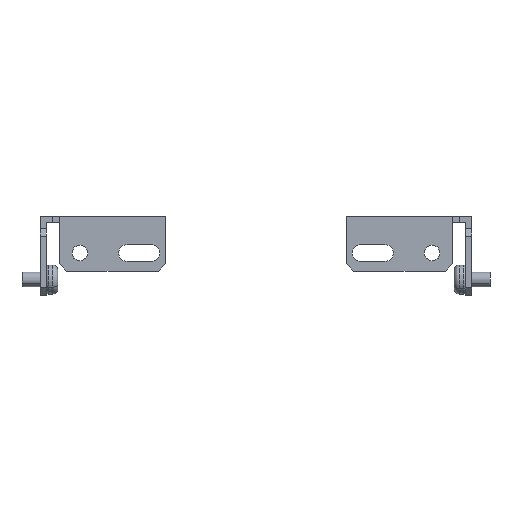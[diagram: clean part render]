
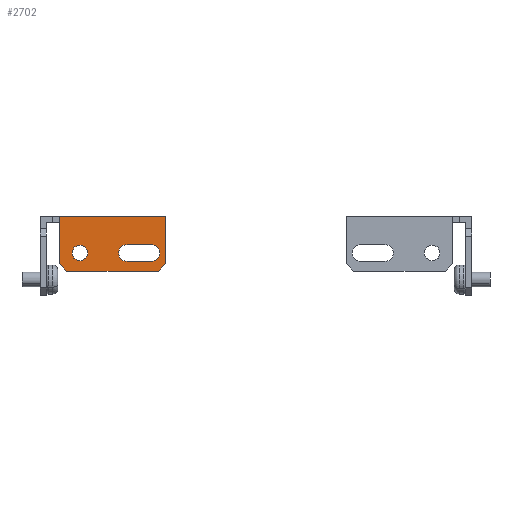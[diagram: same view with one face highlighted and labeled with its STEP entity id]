
A CAD part, front view. The second image highlights one B-rep face of the part: STEP entity #2702.
In plain terms, the highlighted planar face has unit normal (0, -1, 0).
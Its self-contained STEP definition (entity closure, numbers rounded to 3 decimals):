
#6 = DIRECTION ( 'NONE',  ( 0., 1., 0. ) ) ;
#116 = EDGE_CURVE ( 'NONE', #2711, #3448, #779, .T. ) ;
#135 = CARTESIAN_POINT ( 'NONE',  ( -81.414, -36.43, 13.75 ) ) ;
#159 = VERTEX_POINT ( 'NONE', #3949 ) ;
#172 = VERTEX_POINT ( 'NONE', #1917 ) ;
#237 = ORIENTED_EDGE ( 'NONE', *, *, #1753, .T. ) ;
#278 = CARTESIAN_POINT ( 'NONE',  ( -37.414, -36.43, 13.75 ) ) ;
#286 = EDGE_CURVE ( 'NONE', #3374, #3863, #724, .T. ) ;
#350 = CARTESIAN_POINT ( 'NONE',  ( -37.414, -36.43, 11.25 ) ) ;
#355 = AXIS2_PLACEMENT_3D ( 'NONE', #1290, #4452, #4115 ) ;
#367 = EDGE_LOOP ( 'NONE', ( #2896, #829 ) ) ;
#385 = VERTEX_POINT ( 'NONE', #3464 ) ;
#405 = EDGE_LOOP ( 'NONE', ( #3598, #1412, #4090, #2081, #3153, #4430, #2095, #4524 ) ) ;
#478 = CARTESIAN_POINT ( 'NONE',  ( -43.414, -36.43, 1.25 ) ) ;
#503 = DIRECTION ( 'NONE',  ( 0., 1., 0. ) ) ;
#522 = DIRECTION ( 'NONE',  ( 0.707, 0., 0.707 ) ) ;
#612 = VERTEX_POINT ( 'NONE', #2018 ) ;
#633 = VECTOR ( 'NONE', #3560, 1000. ) ;
#652 = DIRECTION ( 'NONE',  ( 0., 0., 1. ) ) ;
#666 = CIRCLE ( 'NONE', #1919, 3.5 ) ;
#685 = VERTEX_POINT ( 'NONE', #1933 ) ;
#724 = CIRCLE ( 'NONE', #355, 3.5 ) ;
#779 = LINE ( 'NONE', #4343, #1985 ) ;
#801 = AXIS2_PLACEMENT_3D ( 'NONE', #1758, #6, #2400 ) ;
#819 = EDGE_CURVE ( 'NONE', #3448, #385, #3477, .T. ) ;
#829 = ORIENTED_EDGE ( 'NONE', *, *, #2279, .T. ) ;
#987 = CARTESIAN_POINT ( 'NONE',  ( -53.414, -36.43, -2.25 ) ) ;
#1168 = VECTOR ( 'NONE', #3574, 1000. ) ;
#1227 = VECTOR ( 'NONE', #1815, 1000. ) ;
#1290 = CARTESIAN_POINT ( 'NONE',  ( -53.414, -36.43, 1.25 ) ) ;
#1310 = CARTESIAN_POINT ( 'NONE',  ( -43.414, -36.43, 4.75 ) ) ;
#1388 = VERTEX_POINT ( 'NONE', #2219 ) ;
#1412 = ORIENTED_EDGE ( 'NONE', *, *, #116, .T. ) ;
#1415 = LINE ( 'NONE', #350, #4394 ) ;
#1606 = ORIENTED_EDGE ( 'NONE', *, *, #1833, .T. ) ;
#1718 = EDGE_CURVE ( 'NONE', #685, #159, #2983, .T. ) ;
#1753 = EDGE_CURVE ( 'NONE', #3863, #4128, #3923, .T. ) ;
#1758 = CARTESIAN_POINT ( 'NONE',  ( -89.414, -36.43, 13.75 ) ) ;
#1759 = EDGE_CURVE ( 'NONE', #612, #2437, #3253, .T. ) ;
#1786 = CARTESIAN_POINT ( 'NONE',  ( -81.414, -36.43, 16.25 ) ) ;
#1791 = EDGE_LOOP ( 'NONE', ( #2979, #237, #1920, #1606 ) ) ;
#1815 = DIRECTION ( 'NONE',  ( 0., 0., 1. ) ) ;
#1833 = EDGE_CURVE ( 'NONE', #172, #3374, #1980, .T. ) ;
#1917 = CARTESIAN_POINT ( 'NONE',  ( -43.414, -36.43, -2.25 ) ) ;
#1918 = VECTOR ( 'NONE', #522, 1000. ) ;
#1919 = AXIS2_PLACEMENT_3D ( 'NONE', #478, #2186, #3990 ) ;
#1920 = ORIENTED_EDGE ( 'NONE', *, *, #3998, .T. ) ;
#1933 = CARTESIAN_POINT ( 'NONE',  ( -72.914, -36.43, 4.5 ) ) ;
#1937 = DIRECTION ( 'NONE',  ( 0.707, 0., -0.707 ) ) ;
#1947 = LINE ( 'NONE', #2678, #1918 ) ;
#1980 = LINE ( 'NONE', #3030, #4009 ) ;
#1985 = VECTOR ( 'NONE', #1937, 1000. ) ;
#2003 = EDGE_CURVE ( 'NONE', #2924, #2437, #2483, .T. ) ;
#2012 = FACE_BOUND ( 'NONE', #367, .T. ) ;
#2018 = CARTESIAN_POINT ( 'NONE',  ( -81.414, -36.43, 11.25 ) ) ;
#2033 = EDGE_CURVE ( 'NONE', #612, #2711, #4268, .T. ) ;
#2043 = DIRECTION ( 'NONE',  ( 0., 1., 0. ) ) ;
#2071 = CARTESIAN_POINT ( 'NONE',  ( -89.414, -36.43, -6.25 ) ) ;
#2081 = ORIENTED_EDGE ( 'NONE', *, *, #4525, .T. ) ;
#2095 = ORIENTED_EDGE ( 'NONE', *, *, #2003, .T. ) ;
#2186 = DIRECTION ( 'NONE',  ( 0., 1., 0. ) ) ;
#2203 = DIRECTION ( 'NONE',  ( 0., 0., -1. ) ) ;
#2208 = DIRECTION ( 'NONE',  ( 0., 0., 1. ) ) ;
#2219 = CARTESIAN_POINT ( 'NONE',  ( -37.414, -36.43, -3.25 ) ) ;
#2243 = CARTESIAN_POINT ( 'NONE',  ( -81.414, -36.43, 13.75 ) ) ;
#2279 = EDGE_CURVE ( 'NONE', #159, #685, #3358, .T. ) ;
#2293 = DIRECTION ( 'NONE',  ( -1., 0., 0. ) ) ;
#2318 = AXIS2_PLACEMENT_3D ( 'NONE', #3215, #503, #2208 ) ;
#2373 = CARTESIAN_POINT ( 'NONE',  ( -53.414, -36.43, 4.75 ) ) ;
#2400 = DIRECTION ( 'NONE',  ( 0., 0., -1. ) ) ;
#2437 = VERTEX_POINT ( 'NONE', #1786 ) ;
#2483 = LINE ( 'NONE', #3104, #1168 ) ;
#2509 = LINE ( 'NONE', #278, #4107 ) ;
#2678 = CARTESIAN_POINT ( 'NONE',  ( -37.414, -36.43, -3.25 ) ) ;
#2702 = ADVANCED_FACE ( 'NONE', ( #2012, #4167, #4461 ), #2742, .F. ) ;
#2711 = VERTEX_POINT ( 'NONE', #2810 ) ;
#2712 = EDGE_CURVE ( 'NONE', #4543, #2924, #1415, .T. ) ;
#2742 = PLANE ( 'NONE',  #801 ) ;
#2769 = DIRECTION ( 'NONE',  ( 0., 0., 1. ) ) ;
#2810 = CARTESIAN_POINT ( 'NONE',  ( -81.414, -36.43, -3.25 ) ) ;
#2877 = CARTESIAN_POINT ( 'NONE',  ( -89.414, -36.43, 4.75 ) ) ;
#2896 = ORIENTED_EDGE ( 'NONE', *, *, #1718, .T. ) ;
#2924 = VERTEX_POINT ( 'NONE', #3178 ) ;
#2979 = ORIENTED_EDGE ( 'NONE', *, *, #286, .T. ) ;
#2983 = CIRCLE ( 'NONE', #2318, 3.25 ) ;
#3025 = CARTESIAN_POINT ( 'NONE',  ( -37.414, -36.43, 11.25 ) ) ;
#3030 = CARTESIAN_POINT ( 'NONE',  ( -89.414, -36.43, -2.25 ) ) ;
#3064 = VECTOR ( 'NONE', #2203, 1000. ) ;
#3104 = CARTESIAN_POINT ( 'NONE',  ( -89.414, -36.43, 16.25 ) ) ;
#3153 = ORIENTED_EDGE ( 'NONE', *, *, #3882, .T. ) ;
#3178 = CARTESIAN_POINT ( 'NONE',  ( -37.414, -36.43, 16.25 ) ) ;
#3215 = CARTESIAN_POINT ( 'NONE',  ( -72.914, -36.43, 1.25 ) ) ;
#3253 = LINE ( 'NONE', #135, #1227 ) ;
#3358 = CIRCLE ( 'NONE', #3803, 3.25 ) ;
#3374 = VERTEX_POINT ( 'NONE', #987 ) ;
#3448 = VERTEX_POINT ( 'NONE', #3451 ) ;
#3451 = CARTESIAN_POINT ( 'NONE',  ( -78.414, -36.43, -6.25 ) ) ;
#3464 = CARTESIAN_POINT ( 'NONE',  ( -40.414, -36.43, -6.25 ) ) ;
#3477 = LINE ( 'NONE', #2071, #4429 ) ;
#3560 = DIRECTION ( 'NONE',  ( 1., 0., 0. ) ) ;
#3574 = DIRECTION ( 'NONE',  ( -1., 0., 0. ) ) ;
#3598 = ORIENTED_EDGE ( 'NONE', *, *, #2033, .T. ) ;
#3803 = AXIS2_PLACEMENT_3D ( 'NONE', #4510, #2043, #2769 ) ;
#3831 = DIRECTION ( 'NONE',  ( 1., 0., 0. ) ) ;
#3863 = VERTEX_POINT ( 'NONE', #2373 ) ;
#3882 = EDGE_CURVE ( 'NONE', #1388, #4543, #2509, .T. ) ;
#3923 = LINE ( 'NONE', #2877, #633 ) ;
#3949 = CARTESIAN_POINT ( 'NONE',  ( -72.914, -36.43, -2. ) ) ;
#3990 = DIRECTION ( 'NONE',  ( 0., 0., 1. ) ) ;
#3998 = EDGE_CURVE ( 'NONE', #4128, #172, #666, .T. ) ;
#4009 = VECTOR ( 'NONE', #2293, 1000. ) ;
#4090 = ORIENTED_EDGE ( 'NONE', *, *, #819, .T. ) ;
#4107 = VECTOR ( 'NONE', #4228, 1000. ) ;
#4115 = DIRECTION ( 'NONE',  ( 0., 0., 1. ) ) ;
#4128 = VERTEX_POINT ( 'NONE', #1310 ) ;
#4167 = FACE_BOUND ( 'NONE', #1791, .T. ) ;
#4228 = DIRECTION ( 'NONE',  ( 0., 0., 1. ) ) ;
#4268 = LINE ( 'NONE', #2243, #3064 ) ;
#4343 = CARTESIAN_POINT ( 'NONE',  ( -78.414, -36.43, -6.25 ) ) ;
#4394 = VECTOR ( 'NONE', #652, 1000. ) ;
#4429 = VECTOR ( 'NONE', #3831, 1000. ) ;
#4430 = ORIENTED_EDGE ( 'NONE', *, *, #2712, .T. ) ;
#4452 = DIRECTION ( 'NONE',  ( 0., 1., 0. ) ) ;
#4461 = FACE_OUTER_BOUND ( 'NONE', #405, .T. ) ;
#4510 = CARTESIAN_POINT ( 'NONE',  ( -72.914, -36.43, 1.25 ) ) ;
#4524 = ORIENTED_EDGE ( 'NONE', *, *, #1759, .F. ) ;
#4525 = EDGE_CURVE ( 'NONE', #385, #1388, #1947, .T. ) ;
#4543 = VERTEX_POINT ( 'NONE', #3025 ) ;
